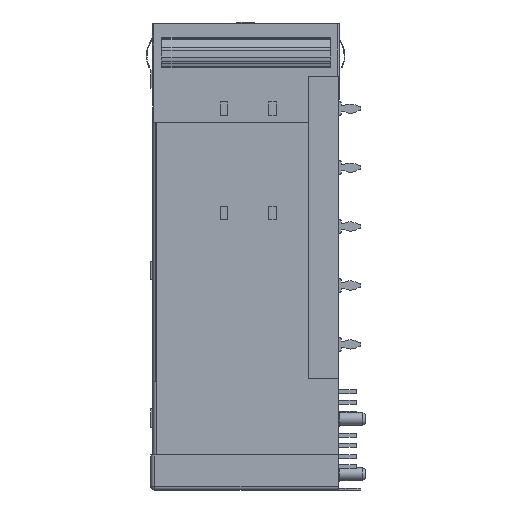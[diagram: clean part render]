
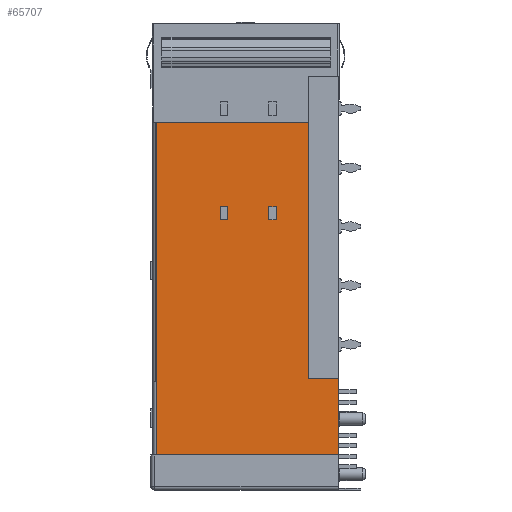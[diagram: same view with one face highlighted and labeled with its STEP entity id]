
A CAD part, left-side view. The second image highlights one B-rep face of the part: STEP entity #65707.
In plain terms, the highlighted planar face has unit normal (-1, 0, 0).
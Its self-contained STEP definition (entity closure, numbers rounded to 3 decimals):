
#233 = CARTESIAN_POINT ( 'NONE',  ( -28.625, 8.45, -26.6 ) ) ;
#3064 = CARTESIAN_POINT ( 'NONE',  ( -28.625, 15., -26.6 ) ) ;
#3297 = LINE ( 'NONE', #28014, #31051 ) ;
#3505 = CARTESIAN_POINT ( 'NONE',  ( -28.625, 9.45, -26.6 ) ) ;
#4017 = DIRECTION ( 'NONE',  ( 0., 0., -1. ) ) ;
#4293 = LINE ( 'NONE', #9688, #32082 ) ;
#4811 = CARTESIAN_POINT ( 'NONE',  ( -28.625, 16., -24.8 ) ) ;
#7168 = FACE_BOUND ( 'NONE', #11676, .T. ) ;
#7311 = CARTESIAN_POINT ( 'NONE',  ( -28.625, 8.45, -24.8 ) ) ;
#8028 = AXIS2_PLACEMENT_3D ( 'NONE', #67732, #40712, #62576 ) ;
#8845 = VERTEX_POINT ( 'NONE', #68667 ) ;
#9103 = VERTEX_POINT ( 'NONE', #12283 ) ;
#9185 = CARTESIAN_POINT ( 'NONE',  ( -28.625, 15., -24.8 ) ) ;
#9304 = CARTESIAN_POINT ( 'NONE',  ( -28.625, 9.45, -24.8 ) ) ;
#9688 = CARTESIAN_POINT ( 'NONE',  ( -28.625, 25.2, -58.5 ) ) ;
#9973 = LINE ( 'NONE', #4811, #63799 ) ;
#11112 = LINE ( 'NONE', #9304, #41401 ) ;
#11560 = LINE ( 'NONE', #46583, #35940 ) ;
#11676 = EDGE_LOOP ( 'NONE', ( #67672, #41172, #17581, #23358 ) ) ;
#11863 = CARTESIAN_POINT ( 'NONE',  ( -28.625, 0., -48.1 ) ) ;
#12283 = CARTESIAN_POINT ( 'NONE',  ( -28.625, 4.1, -48.1 ) ) ;
#12593 = VECTOR ( 'NONE', #38073, 1000. ) ;
#13190 = EDGE_CURVE ( 'NONE', #32575, #46244, #40007, .T. ) ;
#13439 = DIRECTION ( 'NONE',  ( 0., -1., 0. ) ) ;
#14233 = EDGE_CURVE ( 'NONE', #68795, #8845, #32374, .T. ) ;
#14330 = EDGE_LOOP ( 'NONE', ( #46856, #39938, #21308, #33387, #53531, #39545 ) ) ;
#15399 = VECTOR ( 'NONE', #33340, 1000. ) ;
#16347 = CARTESIAN_POINT ( 'NONE',  ( -28.625, 0., -63.25 ) ) ;
#16445 = EDGE_CURVE ( 'NONE', #59110, #43015, #23496, .T. ) ;
#16865 = VERTEX_POINT ( 'NONE', #51461 ) ;
#17064 = CARTESIAN_POINT ( 'NONE',  ( -28.625, 25.2, -13.4 ) ) ;
#17396 = VERTEX_POINT ( 'NONE', #3064 ) ;
#17581 = ORIENTED_EDGE ( 'NONE', *, *, #54782, .T. ) ;
#17683 = VERTEX_POINT ( 'NONE', #20685 ) ;
#17922 = LINE ( 'NONE', #54064, #27189 ) ;
#18142 = VECTOR ( 'NONE', #53951, 1000. ) ;
#19420 = DIRECTION ( 'NONE',  ( 0., -1., 0. ) ) ;
#20573 = EDGE_CURVE ( 'NONE', #8845, #16865, #17922, .T. ) ;
#20685 = CARTESIAN_POINT ( 'NONE',  ( -28.625, 16., -24.8 ) ) ;
#21160 = CARTESIAN_POINT ( 'NONE',  ( -28.625, 0., -48.1 ) ) ;
#21308 = ORIENTED_EDGE ( 'NONE', *, *, #68540, .T. ) ;
#21381 = CARTESIAN_POINT ( 'NONE',  ( -28.625, 4.1, -13.4 ) ) ;
#23045 = ORIENTED_EDGE ( 'NONE', *, *, #43102, .T. ) ;
#23214 = CARTESIAN_POINT ( 'NONE',  ( -28.625, 24.7, -13.4 ) ) ;
#23358 = ORIENTED_EDGE ( 'NONE', *, *, #26578, .T. ) ;
#23432 = VERTEX_POINT ( 'NONE', #48194 ) ;
#23496 = LINE ( 'NONE', #48231, #12593 ) ;
#23517 = EDGE_CURVE ( 'NONE', #46244, #9103, #37235, .T. ) ;
#23967 = VECTOR ( 'NONE', #25393, 1000. ) ;
#25020 = EDGE_CURVE ( 'NONE', #26931, #17396, #54652, .T. ) ;
#25393 = DIRECTION ( 'NONE',  ( 0., 1., 0. ) ) ;
#25659 = VECTOR ( 'NONE', #39089, 1000. ) ;
#26578 = EDGE_CURVE ( 'NONE', #23432, #17683, #9973, .T. ) ;
#26931 = VERTEX_POINT ( 'NONE', #61234 ) ;
#27189 = VECTOR ( 'NONE', #64423, 1000. ) ;
#27293 = LINE ( 'NONE', #17064, #37345 ) ;
#27373 = FACE_BOUND ( 'NONE', #42428, .T. ) ;
#28014 = CARTESIAN_POINT ( 'NONE',  ( -28.625, 4.1, -7.1 ) ) ;
#29067 = FACE_OUTER_BOUND ( 'NONE', #14330, .T. ) ;
#29225 = EDGE_CURVE ( 'NONE', #59110, #51080, #27293, .T. ) ;
#31051 = VECTOR ( 'NONE', #54085, 1000. ) ;
#32082 = VECTOR ( 'NONE', #37141, 1000. ) ;
#32374 = LINE ( 'NONE', #3505, #23967 ) ;
#32575 = VERTEX_POINT ( 'NONE', #58410 ) ;
#32597 = DIRECTION ( 'NONE',  ( 0., 1., 0. ) ) ;
#33340 = DIRECTION ( 'NONE',  ( 0., 1., 0. ) ) ;
#33387 = ORIENTED_EDGE ( 'NONE', *, *, #13190, .T. ) ;
#33675 = CARTESIAN_POINT ( 'NONE',  ( -28.625, 8.45, -24.8 ) ) ;
#34058 = LINE ( 'NONE', #33675, #25659 ) ;
#34466 = CARTESIAN_POINT ( 'NONE',  ( -28.625, 24.7, -58.5 ) ) ;
#35940 = VECTOR ( 'NONE', #13439, 1000. ) ;
#37141 = DIRECTION ( 'NONE',  ( 0., -1., 0. ) ) ;
#37235 = LINE ( 'NONE', #21160, #15399 ) ;
#37345 = VECTOR ( 'NONE', #69758, 1000. ) ;
#37996 = CARTESIAN_POINT ( 'NONE',  ( -28.625, 16., -26.6 ) ) ;
#38073 = DIRECTION ( 'NONE',  ( 0., 0., -1. ) ) ;
#39089 = DIRECTION ( 'NONE',  ( 0., 0., -1. ) ) ;
#39535 = EDGE_CURVE ( 'NONE', #17683, #26931, #11560, .T. ) ;
#39545 = ORIENTED_EDGE ( 'NONE', *, *, #53681, .T. ) ;
#39681 = ORIENTED_EDGE ( 'NONE', *, *, #20573, .T. ) ;
#39938 = ORIENTED_EDGE ( 'NONE', *, *, #16445, .T. ) ;
#40007 = LINE ( 'NONE', #16347, #18142 ) ;
#40712 = DIRECTION ( 'NONE',  ( -1., 0., 0. ) ) ;
#41172 = ORIENTED_EDGE ( 'NONE', *, *, #25020, .T. ) ;
#41272 = VECTOR ( 'NONE', #4017, 1000. ) ;
#41401 = VECTOR ( 'NONE', #19420, 1000. ) ;
#42428 = EDGE_LOOP ( 'NONE', ( #23045, #43435, #64437, #39681 ) ) ;
#43015 = VERTEX_POINT ( 'NONE', #34466 ) ;
#43102 = EDGE_CURVE ( 'NONE', #16865, #49113, #11112, .T. ) ;
#43435 = ORIENTED_EDGE ( 'NONE', *, *, #55593, .T. ) ;
#46244 = VERTEX_POINT ( 'NONE', #11863 ) ;
#46583 = CARTESIAN_POINT ( 'NONE',  ( -28.625, 16., -24.8 ) ) ;
#46856 = ORIENTED_EDGE ( 'NONE', *, *, #29225, .F. ) ;
#48194 = CARTESIAN_POINT ( 'NONE',  ( -28.625, 16., -26.6 ) ) ;
#48231 = CARTESIAN_POINT ( 'NONE',  ( -28.625, 24.7, -63.25 ) ) ;
#49113 = VERTEX_POINT ( 'NONE', #7311 ) ;
#51024 = LINE ( 'NONE', #37996, #67868 ) ;
#51071 = PLANE ( 'NONE',  #8028 ) ;
#51080 = VERTEX_POINT ( 'NONE', #21381 ) ;
#51461 = CARTESIAN_POINT ( 'NONE',  ( -28.625, 9.45, -24.8 ) ) ;
#52988 = DIRECTION ( 'NONE',  ( 0., 0., 1. ) ) ;
#53531 = ORIENTED_EDGE ( 'NONE', *, *, #23517, .T. ) ;
#53681 = EDGE_CURVE ( 'NONE', #9103, #51080, #3297, .T. ) ;
#53951 = DIRECTION ( 'NONE',  ( 0., 0., 1. ) ) ;
#54064 = CARTESIAN_POINT ( 'NONE',  ( -28.625, 9.45, -24.8 ) ) ;
#54085 = DIRECTION ( 'NONE',  ( 0., 0., 1. ) ) ;
#54652 = LINE ( 'NONE', #9185, #41272 ) ;
#54782 = EDGE_CURVE ( 'NONE', #17396, #23432, #51024, .T. ) ;
#55593 = EDGE_CURVE ( 'NONE', #49113, #68795, #34058, .T. ) ;
#58410 = CARTESIAN_POINT ( 'NONE',  ( -28.625, 0., -58.5 ) ) ;
#59110 = VERTEX_POINT ( 'NONE', #23214 ) ;
#61234 = CARTESIAN_POINT ( 'NONE',  ( -28.625, 15., -24.8 ) ) ;
#62576 = DIRECTION ( 'NONE',  ( 0., 0., 1. ) ) ;
#63799 = VECTOR ( 'NONE', #52988, 1000. ) ;
#64423 = DIRECTION ( 'NONE',  ( 0., 0., 1. ) ) ;
#64437 = ORIENTED_EDGE ( 'NONE', *, *, #14233, .T. ) ;
#65707 = ADVANCED_FACE ( 'NONE', ( #27373, #7168, #29067 ), #51071, .T. ) ;
#67672 = ORIENTED_EDGE ( 'NONE', *, *, #39535, .T. ) ;
#67732 = CARTESIAN_POINT ( 'NONE',  ( -28.625, 0., -63.25 ) ) ;
#67868 = VECTOR ( 'NONE', #32597, 1000. ) ;
#68540 = EDGE_CURVE ( 'NONE', #43015, #32575, #4293, .T. ) ;
#68667 = CARTESIAN_POINT ( 'NONE',  ( -28.625, 9.45, -26.6 ) ) ;
#68795 = VERTEX_POINT ( 'NONE', #233 ) ;
#69758 = DIRECTION ( 'NONE',  ( 0., -1., 0. ) ) ;
